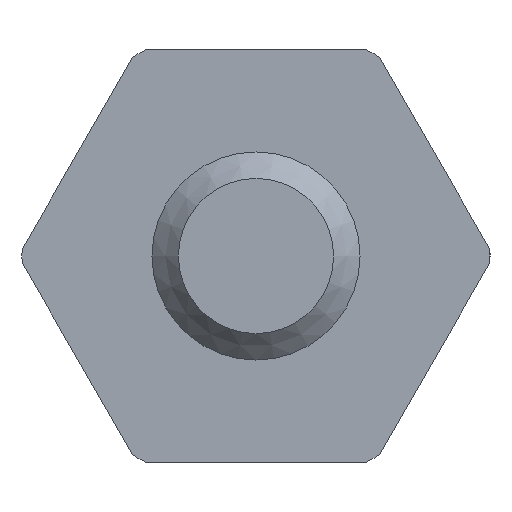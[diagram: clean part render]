
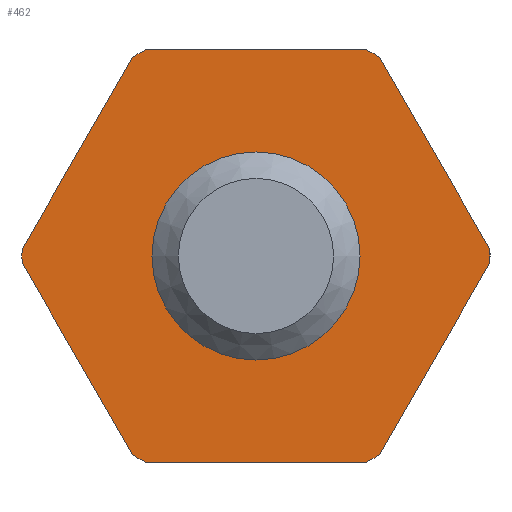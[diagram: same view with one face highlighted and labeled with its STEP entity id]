
A CAD part, left-side view. The second image highlights one B-rep face of the part: STEP entity #462.
In plain terms, the highlighted planar face has unit normal (-1, 0, 0).
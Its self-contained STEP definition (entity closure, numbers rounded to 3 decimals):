
#31=FACE_BOUND($,#93,.T.);
#32=FACE_BOUND($,#94,.T.);
#93=EDGE_LOOP($,(#353));
#94=EDGE_LOOP($,(#354,#355,#356,#357,#358,#359,#360,#361,#362,#363,#364,
#365));
#134=CIRCLE($,#502,2.25);
#135=CIRCLE($,#504,2.25);
#136=CIRCLE($,#506,2.25);
#137=CIRCLE($,#508,2.25);
#138=CIRCLE($,#510,2.25);
#139=CIRCLE($,#512,0.735);
#140=CIRCLE($,#513,2.25);
#161=LINE($,#730,#185);
#164=LINE($,#736,#188);
#166=LINE($,#741,#190);
#169=LINE($,#747,#193);
#172=LINE($,#753,#196);
#176=LINE($,#772,#200);
#185=VECTOR($,#582,2.133);
#188=VECTOR($,#587,2.133);
#190=VECTOR($,#591,2.133);
#193=VECTOR($,#596,2.133);
#196=VECTOR($,#601,2.133);
#200=VECTOR($,#629,2.133);
#217=VERTEX_POINT($,#726);
#218=VERTEX_POINT($,#728);
#219=VERTEX_POINT($,#732);
#220=VERTEX_POINT($,#734);
#221=VERTEX_POINT($,#738);
#222=VERTEX_POINT($,#740);
#223=VERTEX_POINT($,#744);
#224=VERTEX_POINT($,#746);
#225=VERTEX_POINT($,#750);
#226=VERTEX_POINT($,#752);
#227=VERTEX_POINT($,#756);
#228=VERTEX_POINT($,#764);
#229=VERTEX_POINT($,#770);
#260=EDGE_CURVE($,#217,#218,#161,.T.);
#263=EDGE_CURVE($,#219,#220,#164,.T.);
#265=EDGE_CURVE($,#222,#221,#166,.T.);
#268=EDGE_CURVE($,#224,#223,#169,.T.);
#271=EDGE_CURVE($,#226,#225,#172,.T.);
#273=EDGE_CURVE($,#227,#226,#134,.T.);
#275=EDGE_CURVE($,#225,#224,#135,.T.);
#276=EDGE_CURVE($,#223,#222,#136,.T.);
#278=EDGE_CURVE($,#218,#228,#137,.T.);
#279=EDGE_CURVE($,#221,#219,#138,.T.);
#280=EDGE_CURVE($,#229,#229,#139,.T.);
#281=EDGE_CURVE($,#228,#227,#176,.T.);
#282=EDGE_CURVE($,#220,#217,#140,.T.);
#353=ORIENTED_EDGE($,*,*,#280,.F.);
#354=ORIENTED_EDGE($,*,*,#260,.T.);
#355=ORIENTED_EDGE($,*,*,#278,.T.);
#356=ORIENTED_EDGE($,*,*,#281,.T.);
#357=ORIENTED_EDGE($,*,*,#273,.T.);
#358=ORIENTED_EDGE($,*,*,#271,.T.);
#359=ORIENTED_EDGE($,*,*,#275,.T.);
#360=ORIENTED_EDGE($,*,*,#268,.T.);
#361=ORIENTED_EDGE($,*,*,#276,.T.);
#362=ORIENTED_EDGE($,*,*,#265,.T.);
#363=ORIENTED_EDGE($,*,*,#279,.T.);
#364=ORIENTED_EDGE($,*,*,#263,.T.);
#365=ORIENTED_EDGE($,*,*,#282,.T.);
#408=PLANE($,#511);
#462=ADVANCED_FACE($,(#31,#32),#408,.T.);
#502=AXIS2_PLACEMENT_3D($,#757,#605,#606);
#504=AXIS2_PLACEMENT_3D($,#760,#610,#611);
#506=AXIS2_PLACEMENT_3D($,#762,#614,#615);
#508=AXIS2_PLACEMENT_3D($,#766,#619,#620);
#510=AXIS2_PLACEMENT_3D($,#768,#623,#624);
#511=AXIS2_PLACEMENT_3D($,#769,#625,#626);
#512=AXIS2_PLACEMENT_3D($,#771,#627,#628);
#513=AXIS2_PLACEMENT_3D($,#773,#630,#631);
#582=DIRECTION($,(0.,-0.5,-0.866));
#587=DIRECTION($,(0.,0.5,-0.866));
#591=DIRECTION($,(0.,1.,0.));
#596=DIRECTION($,(0.,0.5,0.866));
#601=DIRECTION($,(0.,-0.5,0.866));
#605=DIRECTION('center_axis',(-1.,0.,0.));
#606=DIRECTION('ref_axis',(0.,1.,0.));
#610=DIRECTION('center_axis',(-1.,0.,0.));
#611=DIRECTION('ref_axis',(0.,1.,0.));
#614=DIRECTION('center_axis',(-1.,0.,0.));
#615=DIRECTION('ref_axis',(0.,1.,0.));
#619=DIRECTION('center_axis',(-1.,0.,0.));
#620=DIRECTION('ref_axis',(0.,1.,0.));
#623=DIRECTION('center_axis',(-1.,0.,0.));
#624=DIRECTION('ref_axis',(0.,1.,0.));
#625=DIRECTION('center_axis',(-1.,0.,0.));
#626=DIRECTION('ref_axis',(0.,0.,1.));
#627=DIRECTION('center_axis',(-1.,0.,0.));
#628=DIRECTION('ref_axis',(0.,1.,0.));
#629=DIRECTION($,(0.,-1.,0.));
#630=DIRECTION('center_axis',(-1.,0.,0.));
#631=DIRECTION('ref_axis',(0.,1.,0.));
#726=CARTESIAN_POINT('',(-6.029,1.486,-0.067));
#728=CARTESIAN_POINT('',(-6.029,0.42,-1.914));
#730=CARTESIAN_POINT($,(-6.029,1.138,-0.671));
#732=CARTESIAN_POINT('',(-6.029,0.42,1.914));
#734=CARTESIAN_POINT('',(-6.029,1.486,0.067));
#736=CARTESIAN_POINT($,(-6.029,1.142,0.664));
#738=CARTESIAN_POINT('',(-6.029,0.304,1.981));
#740=CARTESIAN_POINT('',(-6.029,-1.829,1.981));
#741=CARTESIAN_POINT($,(-6.029,-0.012,1.981));
#744=CARTESIAN_POINT('',(-6.029,-1.945,1.914));
#746=CARTESIAN_POINT('',(-6.029,-3.012,0.067));
#747=CARTESIAN_POINT($,(-6.029,-2.29,1.317));
#750=CARTESIAN_POINT('',(-6.029,-3.012,-0.067));
#752=CARTESIAN_POINT('',(-6.029,-1.945,-1.914));
#753=CARTESIAN_POINT($,(-6.029,-2.294,-1.31));
#756=CARTESIAN_POINT('',(-6.029,-1.829,-1.981));
#757=CARTESIAN_POINT('Origin',(-6.029,-0.763,0.));
#760=CARTESIAN_POINT('Origin',(-6.029,-0.763,0.));
#762=CARTESIAN_POINT('Origin',(-6.029,-0.763,0.));
#764=CARTESIAN_POINT('',(-6.029,0.304,-1.981));
#766=CARTESIAN_POINT('Origin',(-6.029,-0.763,0.));
#768=CARTESIAN_POINT('Origin',(-6.029,-0.763,0.));
#769=CARTESIAN_POINT('Origin',(-6.029,0.73,0.));
#770=CARTESIAN_POINT('',(-6.029,-0.028,0.));
#771=CARTESIAN_POINT('Origin',(-6.029,-0.763,0.));
#772=CARTESIAN_POINT($,(-6.029,-0.021,-1.981));
#773=CARTESIAN_POINT('Origin',(-6.029,-0.763,0.));
